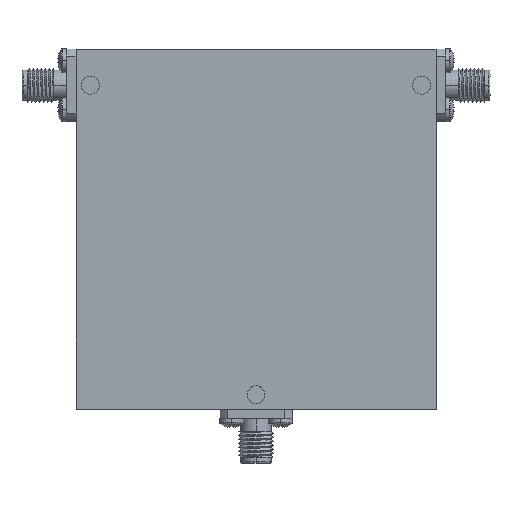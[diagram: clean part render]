
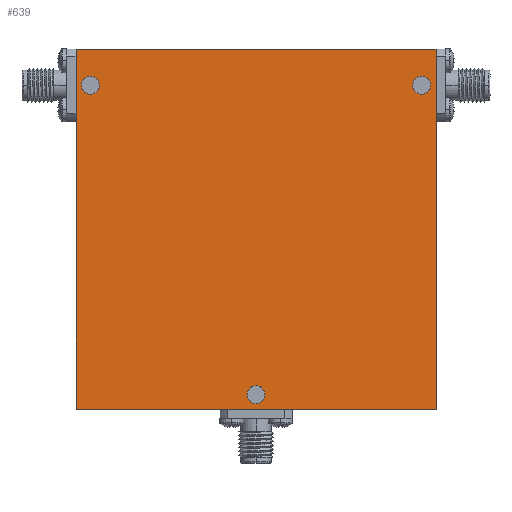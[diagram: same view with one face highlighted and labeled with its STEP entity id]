
A CAD part, top view. The second image highlights one B-rep face of the part: STEP entity #639.
In plain terms, the highlighted planar face has unit normal (0, 0, 1).
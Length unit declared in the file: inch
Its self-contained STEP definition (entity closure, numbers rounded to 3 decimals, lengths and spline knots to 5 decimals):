
#46 = ORIENTED_EDGE ( 'NONE', *, *, #3797, .T. ) ;
#49 = FACE_BOUND ( 'NONE', #725, .T. ) ;
#101 = EDGE_CURVE ( 'NONE', #1159, #2882, #489, .T. ) ;
#110 = CIRCLE ( 'NONE', #1189, 0.0625 ) ;
#113 = VERTEX_POINT ( 'NONE', #3191 ) ;
#188 = CIRCLE ( 'NONE', #3210, 0.0625 ) ;
#262 = VERTEX_POINT ( 'NONE', #1557 ) ;
#295 = PLANE ( 'NONE',  #3755 ) ;
#299 = EDGE_CURVE ( 'NONE', #2194, #113, #438, .T. ) ;
#325 = CIRCLE ( 'NONE', #2594, 0.0625 ) ;
#390 = CARTESIAN_POINT ( 'NONE',  ( 1.15, 1., 0.275 ) ) ;
#438 = CIRCLE ( 'NONE', #2753, 0.0625 ) ;
#458 = CARTESIAN_POINT ( 'NONE',  ( -1.25, -1.25, 0.275 ) ) ;
#489 = CIRCLE ( 'NONE', #1787, 0.0625 ) ;
#508 = EDGE_LOOP ( 'NONE', ( #965, #2323, #2922, #46 ) ) ;
#563 = CARTESIAN_POINT ( 'NONE',  ( 0., -1.15, 0.275 ) ) ;
#587 = CARTESIAN_POINT ( 'NONE',  ( 0., -1.15, 0.275 ) ) ;
#639 = ADVANCED_FACE ( 'NONE', ( #828, #929, #49, #1646 ), #295, .T. ) ;
#653 = DIRECTION ( 'NONE',  ( 0., 1., 0. ) ) ;
#705 = CARTESIAN_POINT ( 'NONE',  ( 1.15, 1., 0.275 ) ) ;
#725 = EDGE_LOOP ( 'NONE', ( #3298, #2108 ) ) ;
#729 = DIRECTION ( 'NONE',  ( 0., 0., 1. ) ) ;
#736 = VERTEX_POINT ( 'NONE', #748 ) ;
#748 = CARTESIAN_POINT ( 'NONE',  ( -1.2125, 1., 0.275 ) ) ;
#808 = DIRECTION ( 'NONE',  ( 1., 0., 0. ) ) ;
#828 = FACE_BOUND ( 'NONE', #2703, .T. ) ;
#840 = VECTOR ( 'NONE', #1350, 39.37008 ) ;
#863 = CARTESIAN_POINT ( 'NONE',  ( -1.15, 1., 0.275 ) ) ;
#864 = CARTESIAN_POINT ( 'NONE',  ( -0.0625, -1.15, 0.275 ) ) ;
#881 = DIRECTION ( 'NONE',  ( 0., 0., 1. ) ) ;
#888 = DIRECTION ( 'NONE',  ( 1., 0., 0. ) ) ;
#902 = DIRECTION ( 'NONE',  ( 1., 0., 0. ) ) ;
#921 = CIRCLE ( 'NONE', #1086, 0.0625 ) ;
#929 = FACE_BOUND ( 'NONE', #1809, .T. ) ;
#957 = EDGE_CURVE ( 'NONE', #3685, #262, #959, .T. ) ;
#959 = LINE ( 'NONE', #1040, #1919 ) ;
#965 = ORIENTED_EDGE ( 'NONE', *, *, #2244, .T. ) ;
#966 = EDGE_CURVE ( 'NONE', #736, #1110, #325, .T. ) ;
#999 = DIRECTION ( 'NONE',  ( 1., 0., 0. ) ) ;
#1040 = CARTESIAN_POINT ( 'NONE',  ( -1.25, 1.25, 0.275 ) ) ;
#1086 = AXIS2_PLACEMENT_3D ( 'NONE', #587, #2636, #888 ) ;
#1110 = VERTEX_POINT ( 'NONE', #3752 ) ;
#1117 = EDGE_CURVE ( 'NONE', #2882, #1159, #921, .T. ) ;
#1159 = VERTEX_POINT ( 'NONE', #1466 ) ;
#1189 = AXIS2_PLACEMENT_3D ( 'NONE', #863, #2583, #3473 ) ;
#1341 = LINE ( 'NONE', #1999, #1624 ) ;
#1350 = DIRECTION ( 'NONE',  ( 1., 0., 0. ) ) ;
#1464 = DIRECTION ( 'NONE',  ( 0., 0., 1. ) ) ;
#1466 = CARTESIAN_POINT ( 'NONE',  ( 0.0625, -1.15, 0.275 ) ) ;
#1557 = CARTESIAN_POINT ( 'NONE',  ( -1.25, 1.25, 0.275 ) ) ;
#1624 = VECTOR ( 'NONE', #1734, 39.37008 ) ;
#1646 = FACE_OUTER_BOUND ( 'NONE', #508, .T. ) ;
#1734 = DIRECTION ( 'NONE',  ( 0., -1., 0. ) ) ;
#1735 = CARTESIAN_POINT ( 'NONE',  ( -1.25, -1.25, 0.275 ) ) ;
#1758 = ORIENTED_EDGE ( 'NONE', *, *, #1117, .F. ) ;
#1787 = AXIS2_PLACEMENT_3D ( 'NONE', #563, #881, #2925 ) ;
#1809 = EDGE_LOOP ( 'NONE', ( #2878, #1758 ) ) ;
#1828 = CARTESIAN_POINT ( 'NONE',  ( 1.25, -1.25, 0.275 ) ) ;
#1919 = VECTOR ( 'NONE', #3077, 39.37008 ) ;
#1999 = CARTESIAN_POINT ( 'NONE',  ( -1.25, 1.25, 0.275 ) ) ;
#2050 = CARTESIAN_POINT ( 'NONE',  ( 0., 0., 0.275 ) ) ;
#2108 = ORIENTED_EDGE ( 'NONE', *, *, #966, .F. ) ;
#2166 = LINE ( 'NONE', #458, #840 ) ;
#2194 = VERTEX_POINT ( 'NONE', #2701 ) ;
#2215 = VECTOR ( 'NONE', #653, 39.37008 ) ;
#2244 = EDGE_CURVE ( 'NONE', #3095, #3685, #3692, .T. ) ;
#2323 = ORIENTED_EDGE ( 'NONE', *, *, #957, .T. ) ;
#2393 = CARTESIAN_POINT ( 'NONE',  ( 1.25, 1.25, 0.275 ) ) ;
#2502 = EDGE_CURVE ( 'NONE', #1110, #736, #110, .T. ) ;
#2524 = EDGE_CURVE ( 'NONE', #262, #2870, #1341, .T. ) ;
#2583 = DIRECTION ( 'NONE',  ( 0., 0., 1. ) ) ;
#2594 = AXIS2_PLACEMENT_3D ( 'NONE', #3141, #3753, #808 ) ;
#2636 = DIRECTION ( 'NONE',  ( 0., 0., 1. ) ) ;
#2701 = CARTESIAN_POINT ( 'NONE',  ( 1.2125, 1., 0.275 ) ) ;
#2703 = EDGE_LOOP ( 'NONE', ( #2719, #3624 ) ) ;
#2719 = ORIENTED_EDGE ( 'NONE', *, *, #299, .F. ) ;
#2753 = AXIS2_PLACEMENT_3D ( 'NONE', #390, #3629, #999 ) ;
#2870 = VERTEX_POINT ( 'NONE', #1735 ) ;
#2878 = ORIENTED_EDGE ( 'NONE', *, *, #101, .F. ) ;
#2882 = VERTEX_POINT ( 'NONE', #864 ) ;
#2922 = ORIENTED_EDGE ( 'NONE', *, *, #2524, .T. ) ;
#2925 = DIRECTION ( 'NONE',  ( 1., 0., 0. ) ) ;
#3077 = DIRECTION ( 'NONE',  ( -1., 0., 0. ) ) ;
#3095 = VERTEX_POINT ( 'NONE', #1828 ) ;
#3141 = CARTESIAN_POINT ( 'NONE',  ( -1.15, 1., 0.275 ) ) ;
#3183 = EDGE_CURVE ( 'NONE', #113, #2194, #188, .T. ) ;
#3191 = CARTESIAN_POINT ( 'NONE',  ( 1.0875, 1., 0.275 ) ) ;
#3210 = AXIS2_PLACEMENT_3D ( 'NONE', #705, #729, #3633 ) ;
#3298 = ORIENTED_EDGE ( 'NONE', *, *, #2502, .F. ) ;
#3473 = DIRECTION ( 'NONE',  ( 1., 0., 0. ) ) ;
#3624 = ORIENTED_EDGE ( 'NONE', *, *, #3183, .F. ) ;
#3629 = DIRECTION ( 'NONE',  ( 0., 0., 1. ) ) ;
#3633 = DIRECTION ( 'NONE',  ( 1., 0., 0. ) ) ;
#3685 = VERTEX_POINT ( 'NONE', #3712 ) ;
#3692 = LINE ( 'NONE', #2393, #2215 ) ;
#3712 = CARTESIAN_POINT ( 'NONE',  ( 1.25, 1.25, 0.275 ) ) ;
#3752 = CARTESIAN_POINT ( 'NONE',  ( -1.0875, 1., 0.275 ) ) ;
#3753 = DIRECTION ( 'NONE',  ( 0., 0., 1. ) ) ;
#3755 = AXIS2_PLACEMENT_3D ( 'NONE', #2050, #1464, #902 ) ;
#3797 = EDGE_CURVE ( 'NONE', #2870, #3095, #2166, .T. ) ;
